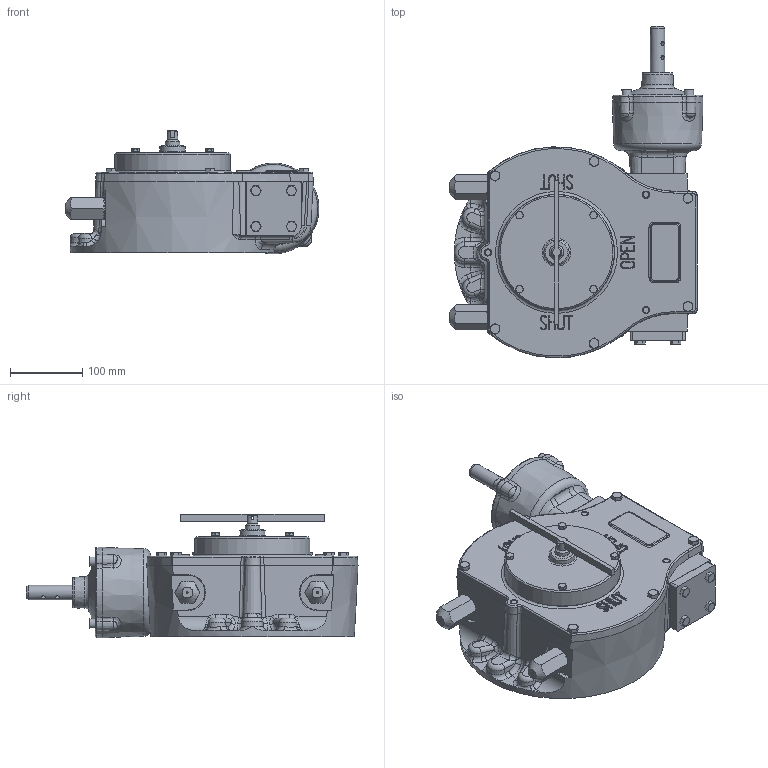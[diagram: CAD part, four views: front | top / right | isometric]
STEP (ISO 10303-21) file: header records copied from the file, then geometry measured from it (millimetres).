
FILE_DESCRIPTION( ( 'Unknown' ), '1' );
FILE_NAME( 'M:/Current Drawings/Internet datasheets/4 - STEP/AB3000CS-PR6 LH.stp', 'Unknown', ( 'Unknown' ), ( 'Unknown' ), 'PSStep 15.0.49', 'Unknown', ' ' );
FILE_SCHEMA( ( 'AUTOMOTIVE_DESIGN { 1 0 10303 214 1 1 1 1 }' ) );
Length unit declared in the file: millimetre
Products named in the file (1): AB3000A02-L
Bounding box: 351.44 x 459.66 x 171.19 mm (x, y, z)
Volume: 6334556 mm3; surface area: 815185 mm2
Topology: 1 solids, 56 shells, 2548 faces, 6472 edges, 3999 vertices
Faces by surface type: plane 746, cylinder 677, cone 481, bspline 300, torus 234, sphere 84, extrusion 26
Full cylindrical faces by diameter (mm): 4 x1, 4.917 x8, 6 x6, 6.647 x40, 7 x4, 8 x18, 8.376 x4, 8.5 x10, 9 x10, 10 x11, 13.27 x4, 14 x4, 15 x1, 17.294 x2, 19 x1, 20 x8, 20.5 x3, 23 x1, 25 x5, 25.2 x2, 26 x4, 28 x2, 29 x1, 30 x2, 35 x3, 38 x2, 47 x2, 102 x1, 104.555 x1, 110 x3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
Entity records: 140598 total; most frequent: CARTESIAN_POINT 64260, ORIENTED_EDGE 11728, DIRECTION 11162, EDGE_CURVE 5864, AXIS2_PLACEMENT_3D 4695, VERTEX_POINT 3844, EDGE_LOOP 3004, FACE_OUTER_BOUND 2773
